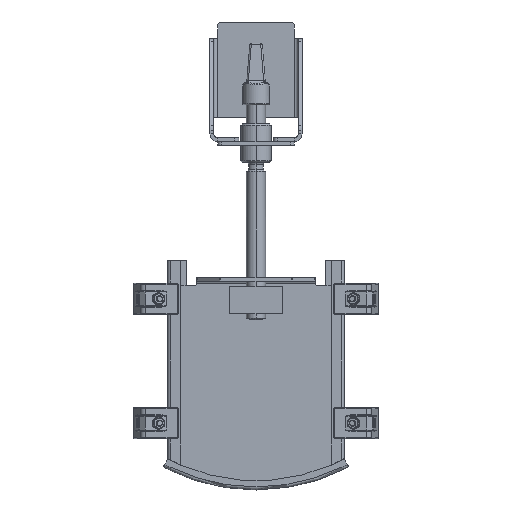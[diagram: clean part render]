
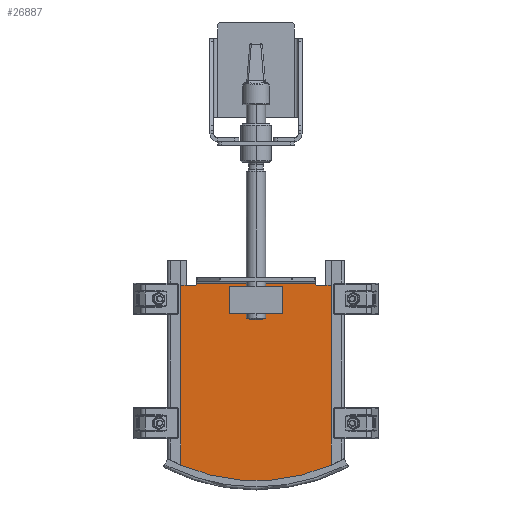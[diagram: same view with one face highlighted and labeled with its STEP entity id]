
A CAD part, top view. The second image highlights one B-rep face of the part: STEP entity #26887.
In plain terms, the highlighted planar face has unit normal (0, 0, 1).
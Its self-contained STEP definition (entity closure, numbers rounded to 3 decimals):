
#353 = DIRECTION ( 'NONE',  ( 1., 0., 0. ) ) ;
#883 = VERTEX_POINT ( 'NONE', #8973 ) ;
#1214 = VERTEX_POINT ( 'NONE', #24892 ) ;
#1284 = EDGE_CURVE ( 'NONE', #28624, #10594, #32330, .T. ) ;
#1567 = DIRECTION ( 'NONE',  ( 0., -1., 0. ) ) ;
#1843 = VERTEX_POINT ( 'NONE', #32963 ) ;
#2142 = DIRECTION ( 'NONE',  ( -1., 0., 0. ) ) ;
#2374 = CIRCLE ( 'NONE', #22478, 2. ) ;
#2453 = CARTESIAN_POINT ( 'NONE',  ( -97.95, 25.856, 33. ) ) ;
#3054 = CARTESIAN_POINT ( 'NONE',  ( -79., 257., 33. ) ) ;
#4305 = CARTESIAN_POINT ( 'NONE',  ( -34., 252.5, 33. ) ) ;
#4369 = CARTESIAN_POINT ( 'NONE',  ( 97.95, 255., 33. ) ) ;
#4743 = VERTEX_POINT ( 'NONE', #22054 ) ;
#5666 = VERTEX_POINT ( 'NONE', #30453 ) ;
#6149 = DIRECTION ( 'NONE',  ( 0., 0., 1. ) ) ;
#6526 = ORIENTED_EDGE ( 'NONE', *, *, #8586, .T. ) ;
#7069 = EDGE_CURVE ( 'NONE', #10503, #30919, #20631, .T. ) ;
#7348 = ORIENTED_EDGE ( 'NONE', *, *, #23140, .F. ) ;
#7699 = CARTESIAN_POINT ( 'NONE',  ( -98.172, 255., 33. ) ) ;
#8321 = ORIENTED_EDGE ( 'NONE', *, *, #15965, .T. ) ;
#8440 = DIRECTION ( 'NONE',  ( 0., 0., -1. ) ) ;
#8529 = DIRECTION ( 'NONE',  ( 0., 1., 0. ) ) ;
#8586 = EDGE_CURVE ( 'NONE', #31745, #4743, #18232, .T. ) ;
#8628 = DIRECTION ( 'NONE',  ( 1., 0., 0. ) ) ;
#8668 = VECTOR ( 'NONE', #23752, 1000. ) ;
#8748 = CARTESIAN_POINT ( 'NONE',  ( -34., 252.5, 33. ) ) ;
#8780 = DIRECTION ( 'NONE',  ( 1., 0., 0. ) ) ;
#8966 = DIRECTION ( 'NONE',  ( 0., 0., -1. ) ) ;
#8973 = CARTESIAN_POINT ( 'NONE',  ( -34., 252.5, 33. ) ) ;
#9006 = FACE_OUTER_BOUND ( 'NONE', #10361, .T. ) ;
#9222 = EDGE_CURVE ( 'NONE', #10594, #1214, #20258, .T. ) ;
#9482 = VECTOR ( 'NONE', #15266, 1000. ) ;
#9532 = CIRCLE ( 'NONE', #34230, 2. ) ;
#10361 = EDGE_LOOP ( 'NONE', ( #23846, #25029, #13687, #11351, #8321, #6526, #7348, #22278 ) ) ;
#10503 = VERTEX_POINT ( 'NONE', #11355 ) ;
#10594 = VERTEX_POINT ( 'NONE', #20145 ) ;
#11030 = CARTESIAN_POINT ( 'NONE',  ( 34., 252.5, 33. ) ) ;
#11351 = ORIENTED_EDGE ( 'NONE', *, *, #23906, .F. ) ;
#11355 = CARTESIAN_POINT ( 'NONE',  ( 34., 217.5, 33. ) ) ;
#11661 = AXIS2_PLACEMENT_3D ( 'NONE', #27676, #8440, #27495 ) ;
#11862 = DIRECTION ( 'NONE',  ( -1., 0., 0. ) ) ;
#12833 = CARTESIAN_POINT ( 'NONE',  ( -105., 257., 33. ) ) ;
#13687 = ORIENTED_EDGE ( 'NONE', *, *, #19761, .T. ) ;
#14004 = CARTESIAN_POINT ( 'NONE',  ( 97.95, 25.856, 33. ) ) ;
#14076 = PLANE ( 'NONE',  #25571 ) ;
#14315 = ORIENTED_EDGE ( 'NONE', *, *, #7069, .F. ) ;
#15033 = EDGE_CURVE ( 'NONE', #883, #1843, #34134, .T. ) ;
#15266 = DIRECTION ( 'NONE',  ( 0., 1., 0. ) ) ;
#15345 = VECTOR ( 'NONE', #1567, 1000. ) ;
#15965 = EDGE_CURVE ( 'NONE', #5666, #31745, #9532, .T. ) ;
#16041 = DIRECTION ( 'NONE',  ( 0., -1., 0. ) ) ;
#16559 = CARTESIAN_POINT ( 'NONE',  ( 79., 257., 33. ) ) ;
#16652 = ORIENTED_EDGE ( 'NONE', *, *, #26891, .F. ) ;
#17162 = CARTESIAN_POINT ( 'NONE',  ( -34., 217.5, 33. ) ) ;
#17340 = CARTESIAN_POINT ( 'NONE',  ( -105., 25.856, 33. ) ) ;
#17805 = CARTESIAN_POINT ( 'NONE',  ( 34., 252.5, 33. ) ) ;
#18232 = LINE ( 'NONE', #7699, #21337 ) ;
#19761 = EDGE_CURVE ( 'NONE', #29052, #34589, #2374, .T. ) ;
#19906 = CARTESIAN_POINT ( 'NONE',  ( 79., 255., 33. ) ) ;
#20145 = CARTESIAN_POINT ( 'NONE',  ( 97.95, 20.432, 33. ) ) ;
#20165 = LINE ( 'NONE', #17162, #30170 ) ;
#20258 = CIRCLE ( 'NONE', #11661, 245. ) ;
#20631 = LINE ( 'NONE', #17805, #9482 ) ;
#21337 = VECTOR ( 'NONE', #2142, 1000. ) ;
#22054 = CARTESIAN_POINT ( 'NONE',  ( -97.95, 255., 33. ) ) ;
#22278 = ORIENTED_EDGE ( 'NONE', *, *, #9222, .F. ) ;
#22478 = AXIS2_PLACEMENT_3D ( 'NONE', #16559, #25503, #33414 ) ;
#23140 = EDGE_CURVE ( 'NONE', #1214, #4743, #27774, .T. ) ;
#23242 = EDGE_CURVE ( 'NONE', #28624, #29052, #34792, .T. ) ;
#23554 = VECTOR ( 'NONE', #34615, 1000. ) ;
#23752 = DIRECTION ( 'NONE',  ( 1., 0., 0. ) ) ;
#23846 = ORIENTED_EDGE ( 'NONE', *, *, #1284, .F. ) ;
#23906 = EDGE_CURVE ( 'NONE', #5666, #34589, #26295, .T. ) ;
#24892 = CARTESIAN_POINT ( 'NONE',  ( -97.95, 20.432, 33. ) ) ;
#24900 = CARTESIAN_POINT ( 'NONE',  ( -79., 255., 33. ) ) ;
#25029 = ORIENTED_EDGE ( 'NONE', *, *, #23242, .T. ) ;
#25503 = DIRECTION ( 'NONE',  ( 0., 0., -1. ) ) ;
#25571 = AXIS2_PLACEMENT_3D ( 'NONE', #17340, #6149, #8628 ) ;
#25994 = VECTOR ( 'NONE', #11862, 1000. ) ;
#26295 = LINE ( 'NONE', #12833, #8668 ) ;
#26510 = ORIENTED_EDGE ( 'NONE', *, *, #35350, .F. ) ;
#26887 = ADVANCED_FACE ( 'NONE', ( #9006, #30589 ), #14076, .T. ) ;
#26891 = EDGE_CURVE ( 'NONE', #1843, #10503, #20165, .T. ) ;
#27495 = DIRECTION ( 'NONE',  ( 1., 0., 0. ) ) ;
#27676 = CARTESIAN_POINT ( 'NONE',  ( 0., 245., 33. ) ) ;
#27774 = LINE ( 'NONE', #2453, #28712 ) ;
#28172 = LINE ( 'NONE', #8748, #25994 ) ;
#28624 = VERTEX_POINT ( 'NONE', #4369 ) ;
#28712 = VECTOR ( 'NONE', #8529, 1000. ) ;
#29011 = ORIENTED_EDGE ( 'NONE', *, *, #15033, .F. ) ;
#29052 = VERTEX_POINT ( 'NONE', #19906 ) ;
#29082 = EDGE_LOOP ( 'NONE', ( #29011, #26510, #14315, #16652 ) ) ;
#29584 = CARTESIAN_POINT ( 'NONE',  ( 98.172, 255., 33. ) ) ;
#30008 = VECTOR ( 'NONE', #16041, 1000. ) ;
#30170 = VECTOR ( 'NONE', #353, 1000. ) ;
#30453 = CARTESIAN_POINT ( 'NONE',  ( -77., 257., 33. ) ) ;
#30589 = FACE_BOUND ( 'NONE', #29082, .T. ) ;
#30919 = VERTEX_POINT ( 'NONE', #11030 ) ;
#31745 = VERTEX_POINT ( 'NONE', #24900 ) ;
#31974 = CARTESIAN_POINT ( 'NONE',  ( 77., 257., 33. ) ) ;
#32330 = LINE ( 'NONE', #14004, #30008 ) ;
#32963 = CARTESIAN_POINT ( 'NONE',  ( -34., 217.5, 33. ) ) ;
#33414 = DIRECTION ( 'NONE',  ( 1., 0., 0. ) ) ;
#34134 = LINE ( 'NONE', #4305, #15345 ) ;
#34230 = AXIS2_PLACEMENT_3D ( 'NONE', #3054, #8966, #8780 ) ;
#34589 = VERTEX_POINT ( 'NONE', #31974 ) ;
#34615 = DIRECTION ( 'NONE',  ( -1., 0., 0. ) ) ;
#34792 = LINE ( 'NONE', #29584, #23554 ) ;
#35350 = EDGE_CURVE ( 'NONE', #30919, #883, #28172, .T. ) ;
